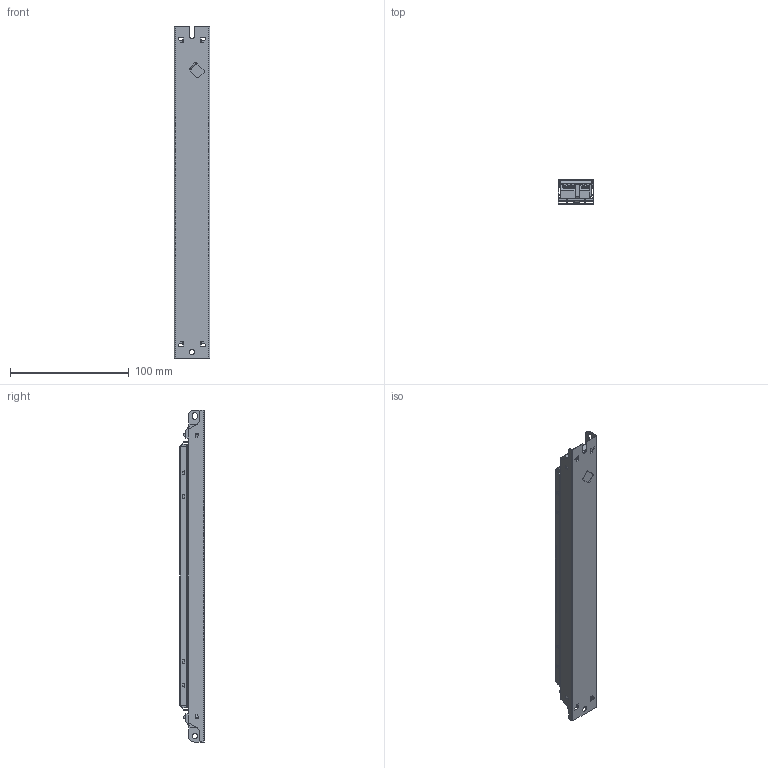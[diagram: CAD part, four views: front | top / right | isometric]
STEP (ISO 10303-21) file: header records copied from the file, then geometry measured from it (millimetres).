
FILE_DESCRIPTION (( 'STEP AP203' ), '1' );
FILE_NAME ('LL1X110-E-DA.STEP', '2015-10-14T12:01:07', ( '' ), ( '' ), 'SwSTEP 2.0', 'SolidWorks 2014', '' );
FILE_SCHEMA (( 'CONFIG_CONTROL_DESIGN' ));
Length unit declared in the file: millimetre
Products named in the file (1): LL1X110-E-DA
Bounding box: 30.08 x 20.8 x 280 mm (x, y, z)
Surface area: 69147.5 mm2 (no closed solid volume)
Topology: 0 solids, 11 shells, 538 faces, 1872 edges, 1315 vertices
Faces by surface type: plane 344, cylinder 166, cone 18, bspline 10
Entity records: 20331 total; most frequent: CARTESIAN_POINT 4325, DIRECTION 3205, ORIENTED_EDGE 3144, EDGE_CURVE 1872, LINE 1387, VECTOR 1387, VERTEX_POINT 1315, AXIS2_PLACEMENT_3D 909
